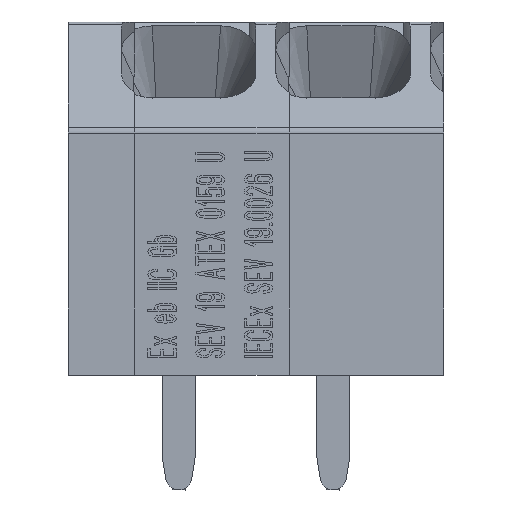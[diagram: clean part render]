
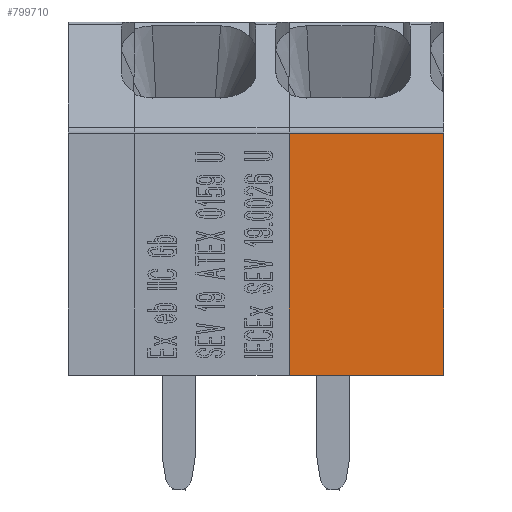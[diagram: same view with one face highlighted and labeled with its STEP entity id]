
A CAD part, front view. The second image highlights one B-rep face of the part: STEP entity #799710.
In plain terms, the highlighted planar face has unit normal (0, -1, 0) as drawn and (1, 0, 0) by its records, which use the part's own axes.
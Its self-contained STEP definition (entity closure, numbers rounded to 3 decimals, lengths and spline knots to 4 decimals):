
#798650=CARTESIAN_POINT('',(-2.2,0.,9.9));
#798660=VERTEX_POINT('',#798650);
#798710=CARTESIAN_POINT('',(-2.2,0.,6.4));
#798720=DIRECTION('',(0.,0.,1.));
#798730=VECTOR('',#798720,1.);
#798740=LINE('',#798710,#798730);
#798750=CARTESIAN_POINT('',(-2.2,0.,6.4));
#798760=VERTEX_POINT('',#798750);
#798770=EDGE_CURVE('',#798760,#798660,#798740,.T.);
#799410=CARTESIAN_POINT('',(-2.2,8.,6.4));
#799420=DIRECTION('',(1.,0.,0.));
#799430=DIRECTION('',(0.,0.,-1.));
#799440=AXIS2_PLACEMENT_3D('',#799410,#799420,#799430);
#799450=PLANE('',#799440);
#799460=CARTESIAN_POINT('',(-2.2,5.4778,6.4));
#799470=DIRECTION('',(0.,0.,-1.));
#799480=VECTOR('',#799470,1.);
#799490=LINE('',#799460,#799480);
#799500=CARTESIAN_POINT('',(-2.2,5.4778,9.9));
#799510=VERTEX_POINT('',#799500);
#799520=CARTESIAN_POINT('',(-2.2,5.4778,6.4));
#799530=VERTEX_POINT('',#799520);
#799540=EDGE_CURVE('',#799510,#799530,#799490,.T.);
#799550=ORIENTED_EDGE('',*,*,#799540,.F.);
#799560=CARTESIAN_POINT('',(-2.2,0.2619,6.4));
#799570=DIRECTION('',(0.,1.,0.));
#799580=VECTOR('',#799570,1.);
#799590=LINE('',#799560,#799580);
#799600=EDGE_CURVE('',#798760,#799530,#799590,.T.);
#799610=ORIENTED_EDGE('',*,*,#799600,.T.);
#799620=ORIENTED_EDGE('',*,*,#798770,.F.);
#799630=CARTESIAN_POINT('',(-2.2,0.2619,9.9));
#799640=DIRECTION('',(0.,-1.,0.));
#799650=VECTOR('',#799640,1.);
#799660=LINE('',#799630,#799650);
#799670=EDGE_CURVE('',#799510,#798660,#799660,.T.);
#799680=ORIENTED_EDGE('',*,*,#799670,.T.);
#799690=EDGE_LOOP('',(#799680,#799620,#799610,#799550));
#799700=FACE_OUTER_BOUND('',#799690,.T.);
#799710=ADVANCED_FACE('',(#799700),#799450,.T.);
